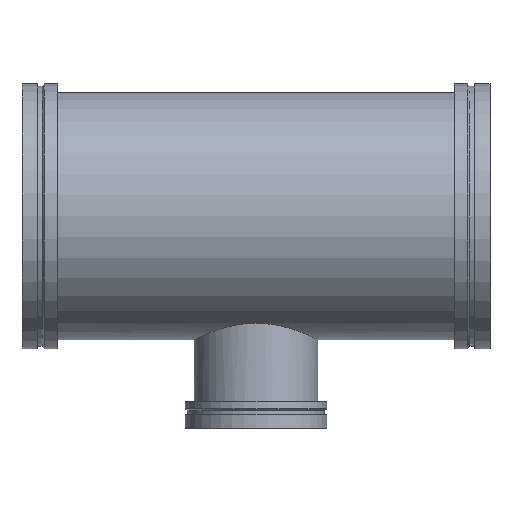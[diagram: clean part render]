
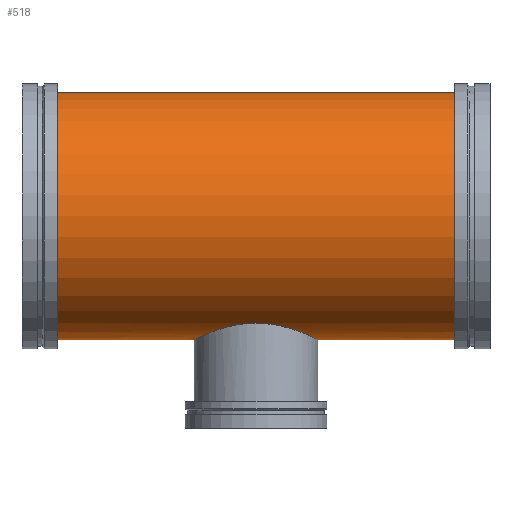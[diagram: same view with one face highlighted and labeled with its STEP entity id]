
A CAD part, top view. The second image highlights one B-rep face of the part: STEP entity #518.
In plain terms, the highlighted cylindrical face has radius 355.6 mm (diameter 711.2 mm), a full revolution.
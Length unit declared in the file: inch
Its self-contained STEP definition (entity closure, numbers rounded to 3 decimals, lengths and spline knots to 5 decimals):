
#51=FACE_BOUND('',#106,.T.);
#77=FACE_OUTER_BOUND('',#105,.T.);
#105=EDGE_LOOP('',(#381,#382,#383,#384,#385,#386));
#106=EDGE_LOOP('',(#387,#388));
#145=CIRCLE('',#580,14.);
#146=CIRCLE('',#581,14.);
#147=CIRCLE('',#582,14.);
#148=CIRCLE('',#583,14.);
#183=LINE('',#1048,#199);
#199=VECTOR('',#704,14.);
#211=B_SPLINE_CURVE_WITH_KNOTS('',3,(#918,#919,#920,#921,#922,#923,#924,
#925,#926,#927,#928,#929,#930,#931,#932,#933,#934,#935,#936,#937,#938,#939,
#940,#941,#942,#943,#944,#945,#946,#947,#948,#949,#950,#951,#952,#953,#954,
#955,#956,#957,#958,#959,#960,#961,#962,#963,#964,#965,#966,#967,#968,#969,
#970,#971,#972,#973,#974,#975,#976,#977,#978,#979),.UNSPECIFIED.,.F.,.F.,
(4,2,2,2,2,2,2,2,2,2,2,2,2,2,2,2,2,2,2,2,2,2,2,2,2,2,2,2,2,2,4),(0.,1.71095,
3.4219,6.84379,10.26569,13.68758,17.10015,
20.51272,23.92529,25.63157,27.33786,29.04414,
30.75042,34.16299,37.57556,40.98813,44.41002,
47.83192,51.25382,52.96476,54.67571,56.38666,
58.09761,61.5195,64.9414,68.3633,71.77586,
75.18843,78.601,80.30728,82.01357),
 .UNSPECIFIED.);
#212=B_SPLINE_CURVE_WITH_KNOTS('',3,(#980,#981,#982,#983,#984,#985,#986,
#987,#988,#989,#990,#991,#992,#993,#994,#995,#996,#997,#998,#999,#1000,
#1001),.UNSPECIFIED.,.F.,.F.,(4,2,2,2,2,2,2,2,2,2,4),(82.01357,
83.71985,85.42614,88.8387,92.25127,95.66384,
99.08574,102.50763,105.92953,107.64048,109.35142),
 .UNSPECIFIED.);
#217=VERTEX_POINT('',#916);
#218=VERTEX_POINT('',#917);
#233=VERTEX_POINT('',#1043);
#234=VERTEX_POINT('',#1044);
#235=VERTEX_POINT('',#1047);
#236=VERTEX_POINT('',#1049);
#270=EDGE_CURVE('',#217,#218,#211,.T.);
#271=EDGE_CURVE('',#218,#217,#212,.T.);
#291=EDGE_CURVE('',#233,#234,#145,.T.);
#292=EDGE_CURVE('',#234,#233,#146,.T.);
#293=EDGE_CURVE('',#234,#235,#183,.T.);
#294=EDGE_CURVE('',#235,#236,#147,.T.);
#295=EDGE_CURVE('',#236,#235,#148,.T.);
#381=ORIENTED_EDGE('',*,*,#291,.F.);
#382=ORIENTED_EDGE('',*,*,#292,.F.);
#383=ORIENTED_EDGE('',*,*,#293,.T.);
#384=ORIENTED_EDGE('',*,*,#294,.T.);
#385=ORIENTED_EDGE('',*,*,#295,.T.);
#386=ORIENTED_EDGE('',*,*,#293,.F.);
#387=ORIENTED_EDGE('',*,*,#270,.T.);
#388=ORIENTED_EDGE('',*,*,#271,.T.);
#474=CYLINDRICAL_SURFACE('',#579,14.);
#518=ADVANCED_FACE('',(#77,#51),#474,.T.);
#579=AXIS2_PLACEMENT_3D('',#1042,#698,#699);
#580=AXIS2_PLACEMENT_3D('',#1045,#700,#701);
#581=AXIS2_PLACEMENT_3D('',#1046,#702,#703);
#582=AXIS2_PLACEMENT_3D('',#1050,#705,#706);
#583=AXIS2_PLACEMENT_3D('',#1051,#707,#708);
#698=DIRECTION('center_axis',(1.,0.,0.));
#699=DIRECTION('ref_axis',(0.,-1.,0.));
#700=DIRECTION('center_axis',(1.,0.,0.));
#701=DIRECTION('ref_axis',(0.,0.,1.));
#702=DIRECTION('center_axis',(1.,0.,0.));
#703=DIRECTION('ref_axis',(0.,0.,1.));
#704=DIRECTION('',(-1.,0.,0.));
#705=DIRECTION('center_axis',(1.,0.,0.));
#706=DIRECTION('ref_axis',(0.,0.,1.));
#707=DIRECTION('center_axis',(1.,0.,0.));
#708=DIRECTION('ref_axis',(0.,0.,1.));
#916=CARTESIAN_POINT('',(0.,-12.12436,7.));
#917=CARTESIAN_POINT('',(-7.,-14.,0.));
#918=CARTESIAN_POINT('Ctrl Pts',(0.,-12.12436,
7.));
#919=CARTESIAN_POINT('Ctrl Pts',(0.22453,-12.12436,7.));
#920=CARTESIAN_POINT('Ctrl Pts',(0.45209,-12.13064,6.98915));
#921=CARTESIAN_POINT('Ctrl Pts',(0.90879,-12.15623,6.94455));
#922=CARTESIAN_POINT('Ctrl Pts',(1.13793,-12.17554,6.91079));
#923=CARTESIAN_POINT('Ctrl Pts',(1.82133,-12.25203,6.77485));
#924=CARTESIAN_POINT('Ctrl Pts',(2.2715,-12.32818,6.63755));
#925=CARTESIAN_POINT('Ctrl Pts',(3.13055,-12.51497,6.27825));
#926=CARTESIAN_POINT('Ctrl Pts',(3.54027,-12.62553,6.05596));
#927=CARTESIAN_POINT('Ctrl Pts',(4.29648,-12.85808,5.54513));
#928=CARTESIAN_POINT('Ctrl Pts',(4.64298,-12.97985,5.25652));
#929=CARTESIAN_POINT('Ctrl Pts',(5.25568,-13.21143,4.64381));
#930=CARTESIAN_POINT('Ctrl Pts',(5.54418,-13.32984,4.29773));
#931=CARTESIAN_POINT('Ctrl Pts',(6.05534,-13.55042,3.54135));
#932=CARTESIAN_POINT('Ctrl Pts',(6.27805,-13.65243,3.13104));
#933=CARTESIAN_POINT('Ctrl Pts',(6.63785,-13.82157,2.27076));
#934=CARTESIAN_POINT('Ctrl Pts',(6.77522,-13.88875,1.81996));
#935=CARTESIAN_POINT('Ctrl Pts',(6.91105,-13.95568,1.13638));
#936=CARTESIAN_POINT('Ctrl Pts',(6.94474,-13.97244,0.9073));
#937=CARTESIAN_POINT('Ctrl Pts',(6.98921,-13.9946,0.45107));
#938=CARTESIAN_POINT('Ctrl Pts',(7.,-14.,0.22392));
#939=CARTESIAN_POINT('Ctrl Pts',(7.,-14.,-0.22392));
#940=CARTESIAN_POINT('Ctrl Pts',(6.98921,-13.9946,-0.45107));
#941=CARTESIAN_POINT('Ctrl Pts',(6.94474,-13.97244,-0.9073));
#942=CARTESIAN_POINT('Ctrl Pts',(6.91105,-13.95568,-1.13638));
#943=CARTESIAN_POINT('Ctrl Pts',(6.77522,-13.88875,-1.81996));
#944=CARTESIAN_POINT('Ctrl Pts',(6.63785,-13.82157,-2.27076));
#945=CARTESIAN_POINT('Ctrl Pts',(6.27805,-13.65243,-3.13104));
#946=CARTESIAN_POINT('Ctrl Pts',(6.05534,-13.55042,-3.54135));
#947=CARTESIAN_POINT('Ctrl Pts',(5.54418,-13.32984,-4.29773));
#948=CARTESIAN_POINT('Ctrl Pts',(5.25568,-13.21143,-4.64381));
#949=CARTESIAN_POINT('Ctrl Pts',(4.64298,-12.97985,-5.25652));
#950=CARTESIAN_POINT('Ctrl Pts',(4.29648,-12.85808,-5.54513));
#951=CARTESIAN_POINT('Ctrl Pts',(3.54027,-12.62553,-6.05596));
#952=CARTESIAN_POINT('Ctrl Pts',(3.13055,-12.51497,-6.27825));
#953=CARTESIAN_POINT('Ctrl Pts',(2.2715,-12.32818,-6.63755));
#954=CARTESIAN_POINT('Ctrl Pts',(1.82133,-12.25203,-6.77485));
#955=CARTESIAN_POINT('Ctrl Pts',(1.13793,-12.17554,-6.91079));
#956=CARTESIAN_POINT('Ctrl Pts',(0.90879,-12.15623,-6.94455));
#957=CARTESIAN_POINT('Ctrl Pts',(0.45209,-12.13064,-6.98915));
#958=CARTESIAN_POINT('Ctrl Pts',(0.22453,-12.12436,-7.));
#959=CARTESIAN_POINT('Ctrl Pts',(-0.22453,-12.12436,-7.));
#960=CARTESIAN_POINT('Ctrl Pts',(-0.45209,-12.13064,-6.98915));
#961=CARTESIAN_POINT('Ctrl Pts',(-0.90879,-12.15623,-6.94455));
#962=CARTESIAN_POINT('Ctrl Pts',(-1.13793,-12.17554,-6.91079));
#963=CARTESIAN_POINT('Ctrl Pts',(-1.82133,-12.25203,-6.77485));
#964=CARTESIAN_POINT('Ctrl Pts',(-2.2715,-12.32818,-6.63755));
#965=CARTESIAN_POINT('Ctrl Pts',(-3.13055,-12.51497,-6.27825));
#966=CARTESIAN_POINT('Ctrl Pts',(-3.54027,-12.62553,-6.05596));
#967=CARTESIAN_POINT('Ctrl Pts',(-4.29648,-12.85808,-5.54513));
#968=CARTESIAN_POINT('Ctrl Pts',(-4.64298,-12.97985,-5.25652));
#969=CARTESIAN_POINT('Ctrl Pts',(-5.25568,-13.21143,-4.64381));
#970=CARTESIAN_POINT('Ctrl Pts',(-5.54418,-13.32984,-4.29773));
#971=CARTESIAN_POINT('Ctrl Pts',(-6.05534,-13.55042,-3.54135));
#972=CARTESIAN_POINT('Ctrl Pts',(-6.27805,-13.65243,-3.13104));
#973=CARTESIAN_POINT('Ctrl Pts',(-6.63785,-13.82157,-2.27076));
#974=CARTESIAN_POINT('Ctrl Pts',(-6.77522,-13.88875,-1.81996));
#975=CARTESIAN_POINT('Ctrl Pts',(-6.91105,-13.95568,-1.13638));
#976=CARTESIAN_POINT('Ctrl Pts',(-6.94474,-13.97244,-0.9073));
#977=CARTESIAN_POINT('Ctrl Pts',(-6.98921,-13.9946,-0.45107));
#978=CARTESIAN_POINT('Ctrl Pts',(-7.,-14.,-0.22392));
#979=CARTESIAN_POINT('Ctrl Pts',(-7.,-14.,0.));
#980=CARTESIAN_POINT('Ctrl Pts',(-7.,-14.,0.));
#981=CARTESIAN_POINT('Ctrl Pts',(-7.,-14.,0.22392));
#982=CARTESIAN_POINT('Ctrl Pts',(-6.98921,-13.9946,0.45107));
#983=CARTESIAN_POINT('Ctrl Pts',(-6.94474,-13.97244,0.9073));
#984=CARTESIAN_POINT('Ctrl Pts',(-6.91105,-13.95568,1.13638));
#985=CARTESIAN_POINT('Ctrl Pts',(-6.77522,-13.88875,1.81996));
#986=CARTESIAN_POINT('Ctrl Pts',(-6.63785,-13.82157,2.27076));
#987=CARTESIAN_POINT('Ctrl Pts',(-6.27805,-13.65243,3.13104));
#988=CARTESIAN_POINT('Ctrl Pts',(-6.05534,-13.55042,3.54135));
#989=CARTESIAN_POINT('Ctrl Pts',(-5.54418,-13.32984,4.29773));
#990=CARTESIAN_POINT('Ctrl Pts',(-5.25568,-13.21143,4.64381));
#991=CARTESIAN_POINT('Ctrl Pts',(-4.64298,-12.97985,5.25652));
#992=CARTESIAN_POINT('Ctrl Pts',(-4.29648,-12.85808,5.54513));
#993=CARTESIAN_POINT('Ctrl Pts',(-3.54027,-12.62553,6.05596));
#994=CARTESIAN_POINT('Ctrl Pts',(-3.13055,-12.51497,6.27825));
#995=CARTESIAN_POINT('Ctrl Pts',(-2.2715,-12.32818,6.63755));
#996=CARTESIAN_POINT('Ctrl Pts',(-1.82133,-12.25203,6.77485));
#997=CARTESIAN_POINT('Ctrl Pts',(-1.13793,-12.17554,6.91079));
#998=CARTESIAN_POINT('Ctrl Pts',(-0.90879,-12.15623,6.94455));
#999=CARTESIAN_POINT('Ctrl Pts',(-0.45209,-12.13064,6.98915));
#1000=CARTESIAN_POINT('Ctrl Pts',(-0.22453,-12.12436,7.));
#1001=CARTESIAN_POINT('Ctrl Pts',(0.,-12.12436,7.));
#1042=CARTESIAN_POINT('Origin',(11.25,0.,0.));
#1043=CARTESIAN_POINT('',(22.5,-14.,0.));
#1044=CARTESIAN_POINT('',(22.5,14.,0.));
#1045=CARTESIAN_POINT('Origin',(22.5,0.,0.));
#1046=CARTESIAN_POINT('Origin',(22.5,0.,0.));
#1047=CARTESIAN_POINT('',(-22.5,14.,0.));
#1048=CARTESIAN_POINT('',(11.25,14.,0.));
#1049=CARTESIAN_POINT('',(-22.5,-14.,0.));
#1050=CARTESIAN_POINT('Origin',(-22.5,0.,0.));
#1051=CARTESIAN_POINT('Origin',(-22.5,0.,0.));
